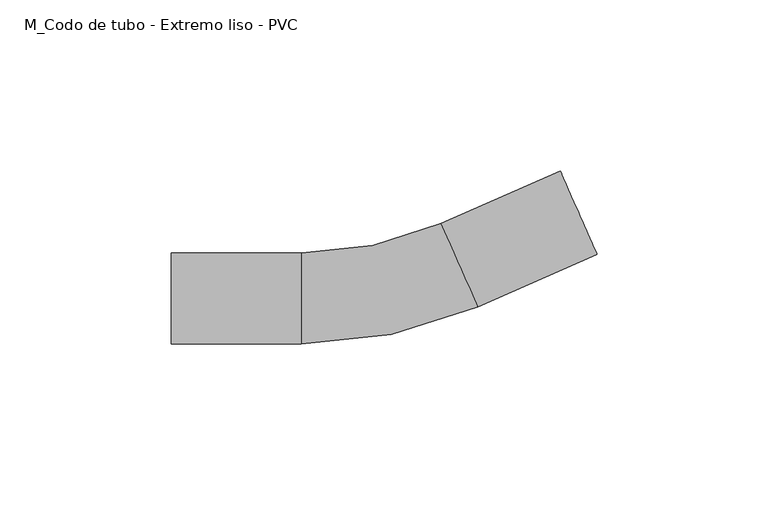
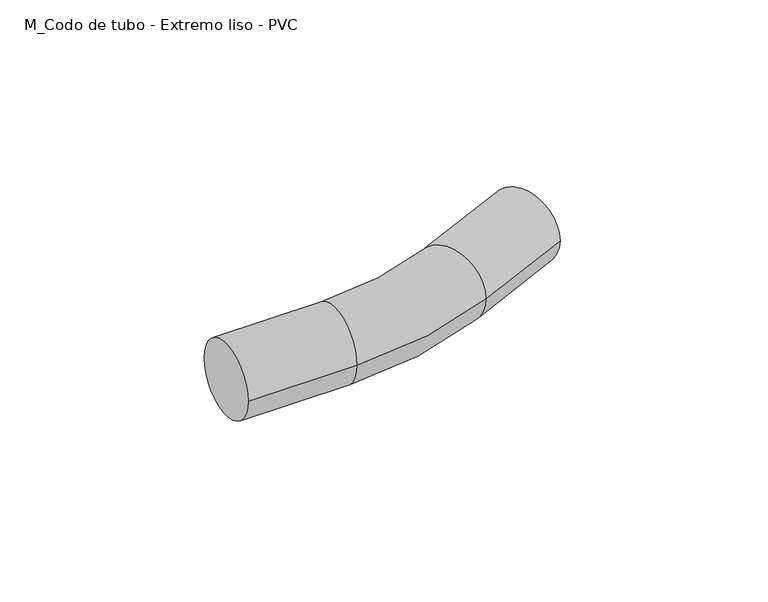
"""IFC4 building model written with IfcOpenShell, lengths in millimetres: cable carrier fitting geometry, M_Codo de tubo - Extremo liso - PVC : CODO ILUMINACION."""

from ifc_helpers import new_model, si_unit, point, frame, origin, place, context, project, spatial, circle_curve, ellipse_curve, trimmed, source, transform, mapped, element, save
from ifc_brep_helpers import plane_surface, cylinder_surface, revolved_surface, advanced_brep


def m_codo_de_tubo_extremo_liso_pvc_b3bed08b(model_context):
    return source(origin(), model_context, "Body", "AdvancedBrep", [
        advanced_brep(
        [(-62.2092105, -13.335, 0.0), (-62.2092105, 13.335, 0.0), (-24.1092105, -13.335, 0.0), (-24.1092105, 13.335, 0.0), (16.6694395, 21.9364091, 0.0), (27.4411584, -2.4615206, 0.0), (62.2953436, 12.9266492, 0.0), (51.5236248, 37.3245789, 0.0)],
        [
            (0, 1, circle_curve(frame((-62.2092105, 0.0, 0.0), z_axis=(-1.0, 0.0, 0.0), x_axis=(0.0, 1.0, 0.0)), 13.335)),
            (1, 0, circle_curve(frame((-62.2092105, 0.0, 0.0), z_axis=(-1.0, 0.0, 0.0), x_axis=(0.0, 1.0, 0.0)), 13.335)),
            (0, 2),
            (2, 3, circle_curve(frame((-24.1092105, 0.0, 0.0), z_axis=(-1.0, 0.0, 0.0), x_axis=(0.0, 1.0, 0.0)), 13.335)),
            (3, 1),
            (3, 2, circle_curve(frame((-24.1092105, 0.0, 0.0), z_axis=(-1.0, 0.0, 0.0), x_axis=(0.0, 1.0, 0.0)), 13.335)),
            (4, 3, circle_curve(frame((-24.1092105, 114.3, 0.0), z_axis=(0.0, 0.0, -1.0), x_axis=(0.0, -1.0, 0.0)), 100.965)),
            (2, 5, circle_curve(frame((-24.1092105, 114.3, 0.0), z_axis=(0.0, 0.0, 1.0), x_axis=(0.0, -1.0, 0.0)), 127.635)),
            (5, 4, circle_curve(frame((22.0552989, 9.7374442, 0.0), z_axis=(-0.9148080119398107, -0.40388897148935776, 0.0), x_axis=(-0.40388897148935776, 0.9148080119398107, 0.0)), 13.335)),
            (4, 5, circle_curve(frame((22.0552989, 9.7374442, 0.0), z_axis=(-0.9148080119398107, -0.40388897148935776, 0.0), x_axis=(-0.40388897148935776, 0.9148080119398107, 0.0)), 13.335)),
            (6, 7, circle_curve(frame((56.9094842, 25.125614, 0.0), z_axis=(0.9148080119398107, 0.4038889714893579, 0.0), x_axis=(-0.4038889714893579, 0.9148080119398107, 0.0)), 13.335)),
            (7, 6, circle_curve(frame((56.9094842, 25.125614, 0.0), z_axis=(0.9148080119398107, 0.4038889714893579, 0.0), x_axis=(-0.4038889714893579, 0.9148080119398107, 0.0)), 13.335)),
            (5, 6),
            (7, 4),
        ],
        [
            plane_surface(frame((-62.2092105, 0.0, 0.0), z_axis=(-1.0, 0.0, 0.0), x_axis=(0.0, 0.0, 1.0))),
            cylinder_surface(frame((-62.2092105, 0.0, 0.0), z_axis=(-1.0, 0.0, 0.0), x_axis=(0.0, 1.0, 0.0)), 13.335),
            revolved_surface(trimmed(ellipse_curve(frame((-24.1092105, 0.0, 0.0), z_axis=(-1.0, 0.0, 0.0), x_axis=(0.0, 1.0, 0.0)), 13.335, 13.335), [point((-24.1092105, -13.335, 0.0))], [point((-24.1092105, 13.335, 0.0))], True, "CARTESIAN"), (-24.1092105, 114.3, 0.0), (0.0, 0.0, 1.0)),
            revolved_surface(trimmed(ellipse_curve(frame((-24.1092105, 0.0, 0.0), z_axis=(-1.0, 0.0, 0.0), x_axis=(0.0, 1.0, 0.0)), 13.335, 13.335), [point((-24.1092105, 13.335, 0.0))], [point((-24.1092105, -13.335, 0.0))], True, "CARTESIAN"), (-24.1092105, 114.3, 0.0), (0.0, 0.0, 1.0)),
            plane_surface(frame((56.9094842, 25.125614, 0.0), z_axis=(0.9148080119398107, 0.40388897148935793, 0.0), x_axis=(0.0, 0.0, 1.0))),
            cylinder_surface(frame((22.0552989, 9.7374442, 0.0), z_axis=(-0.9148080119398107, -0.4038889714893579, 0.0), x_axis=(-0.4038889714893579, 0.9148080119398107, 0.0)), 13.335),
        ],
        [
            (0, [[1, 2]]),
            (1, [[-1, 3, 4, 5]]),
            (1, [[-2, -5, 6, -3]]),
            (2, [[7, -4, 8, 9]]),
            (3, [[-8, -6, -7, 10]]),
            (4, [[11, 12]]),
            (5, [[-9, 13, -12, 14]]),
            (5, [[-10, -14, -11, -13]]),
        ],
    ),
    ])


if __name__ == "__main__":
    model = new_model("IFC4")
    model_context = context("Model", 3, world=origin())
    ifc_project = project(units=[si_unit("LENGTHUNIT", "METRE", prefix="MILLI")], contexts=[model_context])
    site = spatial("IfcSite", under=ifc_project)
    building = spatial("IfcBuilding", under=site)
    placement = place(None, origin())
    m_codo_de_tubo_extremo_liso_pvc_shape = m_codo_de_tubo_extremo_liso_pvc_b3bed08b(model_context)
    element("IfcCableCarrierFitting", 1, ObjectType="M_Codo de tubo - Extremo liso - PVC : CODO ILUMINACION", at=placement, inside=building, context=model_context, shape_type="MappedRepresentation", body=[
        mapped(m_codo_de_tubo_extremo_liso_pvc_shape, transform((0.0, 0.0, 0.0), x_axis=(1.0, 0.0, 0.0), y_axis=(0.0, 1.0, 0.0), z_axis=(0.0, 0.0, 1.0))),
    ])
    save(model, "model.ifc")
